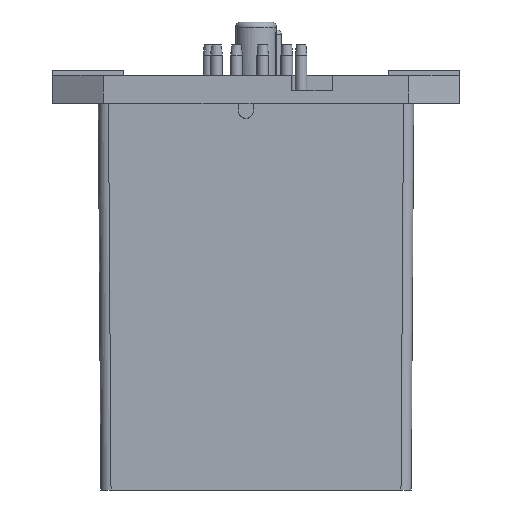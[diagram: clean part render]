
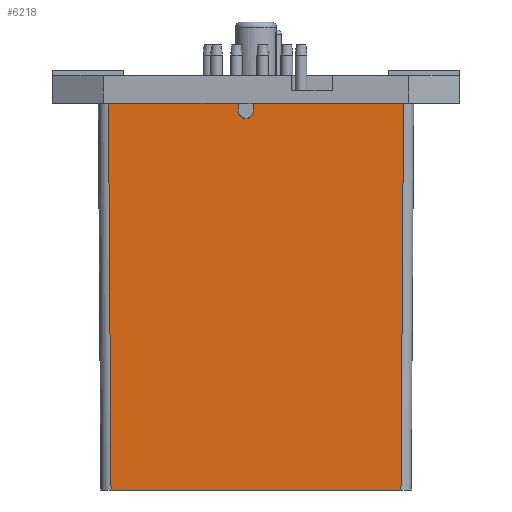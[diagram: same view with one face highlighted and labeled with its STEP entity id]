
A CAD part, left-side view. The second image highlights one B-rep face of the part: STEP entity #6218.
In plain terms, the highlighted planar face has unit normal (-1, 0, -0.007).
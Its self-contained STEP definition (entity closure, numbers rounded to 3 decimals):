
#5907=CARTESIAN_POINT('',(-24.99,0.5,74.5));
#5908=VERTEX_POINT('',#5907);
#5909=CARTESIAN_POINT('',(-24.99,3.5,74.5));
#5910=VERTEX_POINT('',#5909);
#5911=CARTESIAN_POINT('',(-24.99,2.,74.5));
#5912=DIRECTION('',(1.,0.0,0.007));
#5913=DIRECTION('',(0.0,1.0,0.0));
#5914=AXIS2_PLACEMENT_3D('',#5911,#5912,#5913);
#5915=CIRCLE('',#5914,1.5);
#5916=EDGE_CURVE('',#5908,#5910,#5915,.T.);
#5949=CARTESIAN_POINT('',(-25.0,0.5,76.0));
#5950=VERTEX_POINT('',#5949);
#5951=CARTESIAN_POINT('',(-25.,0.5,76.));
#5952=DIRECTION('',(0.007,0.,-1.));
#5953=VECTOR('',#5952,1.5);
#5954=LINE('',#5951,#5953);
#5955=EDGE_CURVE('',#5950,#5908,#5954,.T.);
#6106=CARTESIAN_POINT('',(-25.,3.5,76.0));
#6107=VERTEX_POINT('',#6106);
#6137=CARTESIAN_POINT('',(-24.99,3.5,74.5));
#6138=DIRECTION('',(-0.007,0.0,1.));
#6139=VECTOR('',#6138,1.5);
#6140=LINE('',#6137,#6139);
#6141=EDGE_CURVE('',#5910,#6107,#6140,.T.);
#6170=CARTESIAN_POINT('',(-25.0,-31.,76.0));
#6171=DIRECTION('',(-1.,0.,-0.007));
#6172=DIRECTION('',(-0.007,0.0,1.));
#6173=AXIS2_PLACEMENT_3D('',#6170,#6171,#6172);
#6174=PLANE('',#6173);
#6175=ORIENTED_EDGE('',*,*,#6141,.T.);
#6176=CARTESIAN_POINT('',(-25.,29.,76.0));
#6177=VERTEX_POINT('',#6176);
#6178=CARTESIAN_POINT('',(-25.,3.5,76.0));
#6179=DIRECTION('',(0.0,1.0,0.0));
#6180=VECTOR('',#6179,25.5);
#6181=LINE('',#6178,#6180);
#6182=EDGE_CURVE('',#6107,#6177,#6181,.T.);
#6183=ORIENTED_EDGE('',*,*,#6182,.T.);
#6184=CARTESIAN_POINT('',(-24.5,28.5,0.0));
#6185=VERTEX_POINT('',#6184);
#6186=CARTESIAN_POINT('',(-24.5,28.5,0.));
#6187=DIRECTION('',(-0.007,0.007,1.));
#6188=VECTOR('',#6187,76.003);
#6189=LINE('',#6186,#6188);
#6190=EDGE_CURVE('',#6185,#6177,#6189,.T.);
#6191=ORIENTED_EDGE('',*,*,#6190,.F.);
#6192=CARTESIAN_POINT('',(-24.5,-28.5,0.0));
#6193=VERTEX_POINT('',#6192);
#6194=CARTESIAN_POINT('',(-24.5,-28.5,0.0));
#6195=DIRECTION('',(0.0,1.0,0.0));
#6196=VECTOR('',#6195,57.);
#6197=LINE('',#6194,#6196);
#6198=EDGE_CURVE('',#6193,#6185,#6197,.T.);
#6199=ORIENTED_EDGE('',*,*,#6198,.F.);
#6200=CARTESIAN_POINT('',(-25.0,-29.,76.0));
#6201=VERTEX_POINT('',#6200);
#6202=CARTESIAN_POINT('',(-25.0,-29.,76.0));
#6203=DIRECTION('',(0.007,0.007,-1.));
#6204=VECTOR('',#6203,76.003);
#6205=LINE('',#6202,#6204);
#6206=EDGE_CURVE('',#6201,#6193,#6205,.T.);
#6207=ORIENTED_EDGE('',*,*,#6206,.F.);
#6208=CARTESIAN_POINT('',(-25.0,-29.,76.0));
#6209=DIRECTION('',(0.0,1.0,0.0));
#6210=VECTOR('',#6209,29.5);
#6211=LINE('',#6208,#6210);
#6212=EDGE_CURVE('',#6201,#5950,#6211,.T.);
#6213=ORIENTED_EDGE('',*,*,#6212,.T.);
#6214=ORIENTED_EDGE('',*,*,#5955,.T.);
#6215=ORIENTED_EDGE('',*,*,#5916,.T.);
#6216=EDGE_LOOP('',(#6175,#6183,#6191,#6199,#6207,#6213,#6214,#6215));
#6217=FACE_OUTER_BOUND('',#6216,.T.);
#6218=ADVANCED_FACE('',(#6217),#6174,.T.);
